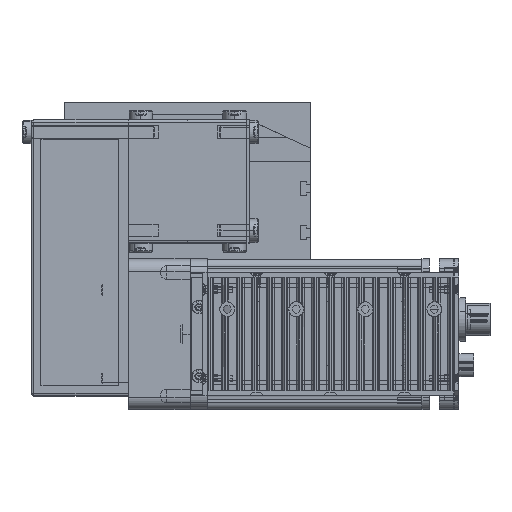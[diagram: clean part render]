
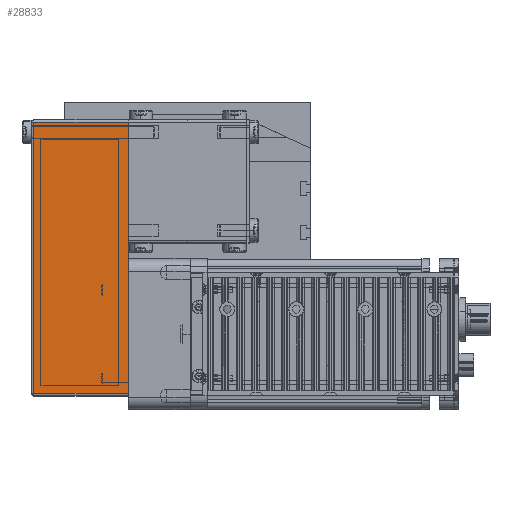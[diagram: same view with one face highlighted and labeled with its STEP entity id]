
A CAD part, top view. The second image highlights one B-rep face of the part: STEP entity #28833.
In plain terms, the highlighted planar face has unit normal (0, 0, 1) as drawn and (0, 1, 0) by its records, which use the part's own axes.
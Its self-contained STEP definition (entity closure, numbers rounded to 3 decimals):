
#22340 = CARTESIAN_POINT ( 'NONE',  ( -49., 25., 0. ) ) ;
#22393 = DIRECTION ( 'NONE',  ( 0., 0., -1. ) ) ;
#22394 = VECTOR ( 'NONE', #22393, 1000. ) ;
#22409 = LINE ( 'NONE', #22421, #22394 ) ;
#22421 = CARTESIAN_POINT ( 'NONE',  ( -49., 25., 39.5 ) ) ;
#22447 = CARTESIAN_POINT ( 'NONE',  ( -49., 25., 38.5 ) ) ;
#22592 = CARTESIAN_POINT ( 'NONE',  ( 61., 25., 38.5 ) ) ;
#22755 = CARTESIAN_POINT ( 'NONE',  ( 61., 25., 0. ) ) ;
#22803 = DIRECTION ( 'NONE',  ( 0., 0., 1. ) ) ;
#22804 = VECTOR ( 'NONE', #22803, 1000. ) ;
#22806 = CARTESIAN_POINT ( 'NONE',  ( 61., 25., 39.5 ) ) ;
#22816 = LINE ( 'NONE', #22806, #22804 ) ;
#23069 = LINE ( 'NONE', #23173, #23171 ) ;
#23170 = DIRECTION ( 'NONE',  ( -1., 0., 0. ) ) ;
#23171 = VECTOR ( 'NONE', #23170, 1000. ) ;
#23173 = CARTESIAN_POINT ( 'NONE',  ( -50., 25., 38.5 ) ) ;
#23379 = DIRECTION ( 'NONE',  ( -1., 0., 0. ) ) ;
#23381 = VECTOR ( 'NONE', #23379, 1000. ) ;
#23383 = CARTESIAN_POINT ( 'NONE',  ( -50., 25., 0. ) ) ;
#23384 = LINE ( 'NONE', #23383, #23381 ) ;
#23441 = DIRECTION ( 'NONE',  ( 0., 0., -1. ) ) ;
#23442 = DIRECTION ( 'NONE',  ( 0., -1., 0. ) ) ;
#23481 = FACE_OUTER_BOUND ( 'NONE', #28735, .T. ) ;
#23485 = AXIS2_PLACEMENT_3D ( 'NONE', #23497, #23442, #23441 ) ;
#23489 = PLANE ( 'NONE',  #23485 ) ;
#23497 = CARTESIAN_POINT ( 'NONE',  ( -50., 25., 39.5 ) ) ;
#28381 = VERTEX_POINT ( 'NONE', #22340 ) ;
#28384 = EDGE_CURVE ( 'NONE', #28460, #28381, #22409, .T. ) ;
#28460 = VERTEX_POINT ( 'NONE', #22447 ) ;
#28492 = VERTEX_POINT ( 'NONE', #22592 ) ;
#28550 = VERTEX_POINT ( 'NONE', #22755 ) ;
#28554 = EDGE_CURVE ( 'NONE', #28550, #28492, #22816, .T. ) ;
#28731 = EDGE_CURVE ( 'NONE', #28492, #28460, #23069, .T. ) ;
#28735 = EDGE_LOOP ( 'NONE', ( #28890, #28829, #28846, #28865 ) ) ;
#28817 = EDGE_CURVE ( 'NONE', #28550, #28381, #23384, .T. ) ;
#28829 = ORIENTED_EDGE ( 'NONE', *, *, #28731, .F. ) ;
#28833 = ADVANCED_FACE ( 'NONE', ( #23481 ), #23489, .F. ) ;
#28846 = ORIENTED_EDGE ( 'NONE', *, *, #28554, .F. ) ;
#28865 = ORIENTED_EDGE ( 'NONE', *, *, #28817, .T. ) ;
#28890 = ORIENTED_EDGE ( 'NONE', *, *, #28384, .F. ) ;
